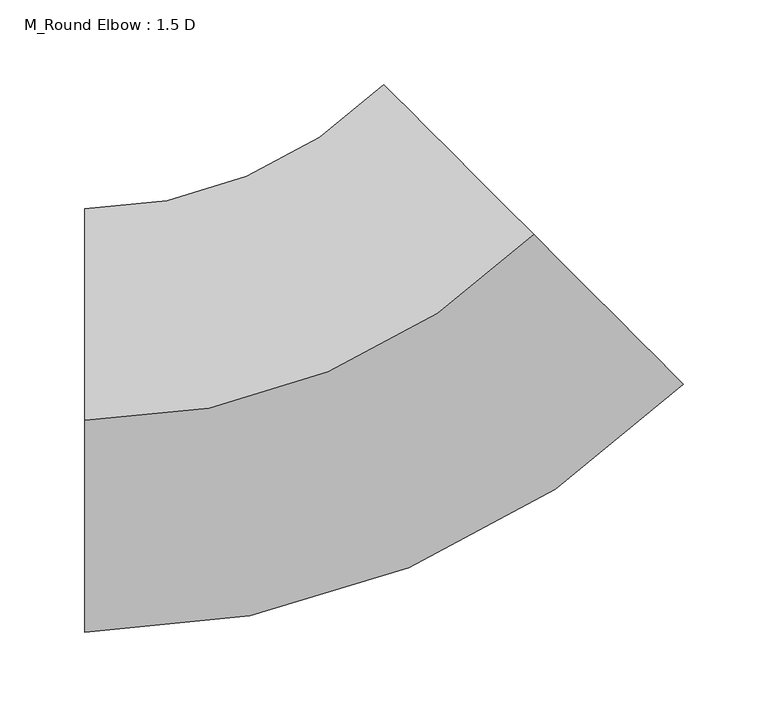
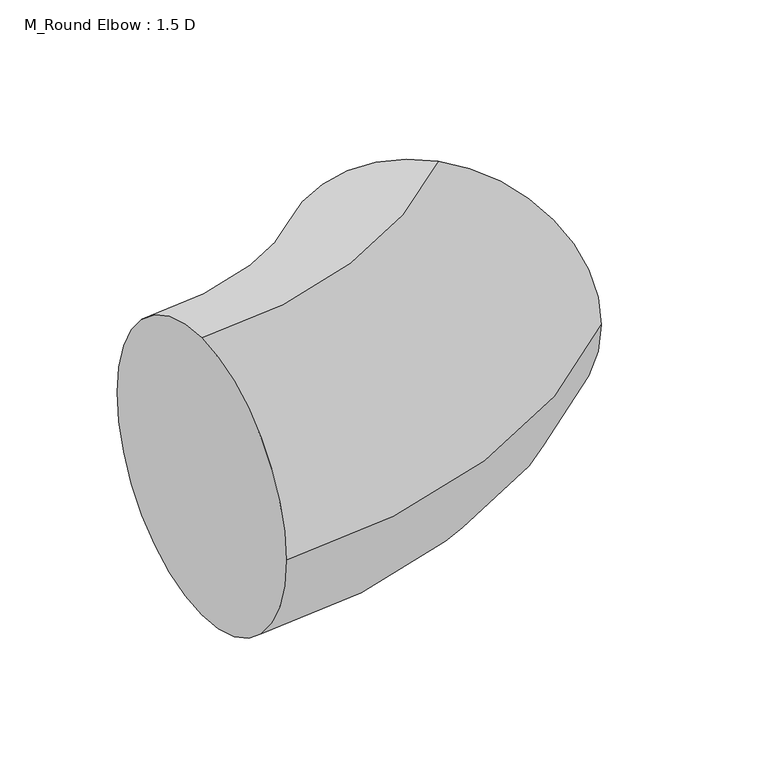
"""IFC4 building model written with IfcOpenShell, lengths in millimetres: duct fitting geometry, M_Round Elbow : 1.5 D."""

from ifc_helpers import new_model, si_unit, point, frame, origin, place, context, project, spatial, circle_curve, ellipse_curve, trimmed, source, transform, mapped, element, save
from ifc_brep_helpers import plane_surface, revolved_surface, advanced_brep


def m_round_elbow_1_5_d_6facac79(model_context):
    return source(origin(), model_context, "Body", "AdvancedBrep", [
        advanced_brep(
        [(-155.3300859, 0.0, 125.0), (-155.3300859, 125.0, 0.0), (-155.3300859, 0.0, -125.0), (-155.3300859, -125.0, 0.0), (109.8349571, 109.8349571, 125.0), (198.2233047, 21.4466094, 0.0), (109.8349571, 109.8349571, -125.0), (21.4466094, 198.2233047, 0.0)],
        [
            (0, 1, circle_curve(frame((-155.3300859, 0.0, 0.0), z_axis=(-1.0, 0.0, 0.0), x_axis=(0.0, 1.0, 0.0)), 125.0)),
            (1, 2, circle_curve(frame((-155.3300859, 0.0, 0.0), z_axis=(-1.0, 0.0, 0.0), x_axis=(0.0, 1.0, 0.0)), 125.0)),
            (2, 3, circle_curve(frame((-155.3300859, 0.0, 0.0), z_axis=(-1.0, 0.0, 0.0), x_axis=(0.0, 1.0, 0.0)), 125.0)),
            (3, 0, circle_curve(frame((-155.3300859, 0.0, 0.0), z_axis=(-1.0, 0.0, 0.0), x_axis=(0.0, 1.0, 0.0)), 125.0)),
            (4, 5, circle_curve(frame((109.8349571, 109.8349571, 0.0), z_axis=(0.707106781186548, 0.707106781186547, 0.0), x_axis=(-0.707106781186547, 0.707106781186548, 0.0)), 125.0)),
            (5, 6, circle_curve(frame((109.8349571, 109.8349571, 0.0), z_axis=(0.707106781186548, 0.707106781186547, 0.0), x_axis=(-0.707106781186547, 0.707106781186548, 0.0)), 125.0)),
            (6, 7, circle_curve(frame((109.8349571, 109.8349571, 0.0), z_axis=(0.707106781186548, 0.707106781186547, 0.0), x_axis=(-0.707106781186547, 0.707106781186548, 0.0)), 125.0)),
            (7, 4, circle_curve(frame((109.8349571, 109.8349571, 0.0), z_axis=(0.707106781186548, 0.707106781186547, 0.0), x_axis=(-0.707106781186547, 0.707106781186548, 0.0)), 125.0)),
            (7, 1, circle_curve(frame((-155.3300859, 375.0, 0.0), z_axis=(0.0, 0.0, -1.0), x_axis=(0.0, -1.0, 0.0)), 250.0)),
            (0, 4, circle_curve(frame((-155.3300859, 375.0, 125.0), z_axis=(0.0, 0.0, 1.0), x_axis=(0.0, -1.0, 0.0)), 375.0)),
            (6, 2, circle_curve(frame((-155.3300859, 375.0, -125.0), z_axis=(0.0, 0.0, -1.0), x_axis=(0.0, -1.0, 0.0)), 375.0)),
            (5, 3, circle_curve(frame((-155.3300859, 375.0, 0.0), z_axis=(0.0, 0.0, -1.0), x_axis=(0.0, -1.0, 0.0)), 500.0)),
        ],
        [
            plane_surface(frame((-155.3300859, 0.0, 0.0), z_axis=(-1.0, 0.0, 0.0), x_axis=(0.0, 0.0, 1.0))),
            plane_surface(frame((109.8349571, 109.8349571, 0.0), z_axis=(0.707106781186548, 0.7071067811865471, 0.0), x_axis=(0.0, 0.0, 1.0))),
            revolved_surface(trimmed(ellipse_curve(frame((-155.3300859, 0.0, 0.0), z_axis=(-1.0, 0.0, 0.0), x_axis=(0.0, 1.0, 0.0)), 125.0, 125.0), [point((-155.3300859, 0.0, 125.0))], [point((-155.3300859, 125.0, 0.0))], True, "CARTESIAN"), (-155.3300859, 375.0, 0.0), (0.0, 0.0, 1.0)),
            revolved_surface(trimmed(ellipse_curve(frame((-155.3300859, 0.0, 0.0), z_axis=(-1.0, 0.0, 0.0), x_axis=(0.0, 1.0, 0.0)), 125.0, 125.0), [point((-155.3300859, 125.0, 0.0))], [point((-155.3300859, 0.0, -125.0))], True, "CARTESIAN"), (-155.3300859, 375.0, 0.0), (0.0, 0.0, 1.0)),
            revolved_surface(trimmed(ellipse_curve(frame((-155.3300859, 0.0, 0.0), z_axis=(-1.0, 0.0, 0.0), x_axis=(0.0, 1.0, 0.0)), 125.0, 125.0), [point((-155.3300859, 0.0, -125.0))], [point((-155.3300859, -125.0, 0.0))], True, "CARTESIAN"), (-155.3300859, 375.0, 0.0), (0.0, 0.0, 1.0)),
            revolved_surface(trimmed(ellipse_curve(frame((-155.3300859, 0.0, 0.0), z_axis=(-1.0, 0.0, 0.0), x_axis=(0.0, 1.0, 0.0)), 125.0, 125.0), [point((-155.3300859, -125.0, 0.0))], [point((-155.3300859, 0.0, 125.0))], True, "CARTESIAN"), (-155.3300859, 375.0, 0.0), (0.0, 0.0, 1.0)),
        ],
        [
            (0, [[1, 2, 3, 4]]),
            (1, [[5, 6, 7, 8]]),
            (2, [[9, -1, 10, -8]]),
            (3, [[11, -2, -9, -7]]),
            (4, [[12, -3, -11, -6]]),
            (5, [[-10, -4, -12, -5]]),
        ],
    ),
        advanced_brep(
        [(-155.3300859, 0.0, 125.0), (-155.3300859, 125.0, 0.0), (-155.3300859, 0.0, -125.0), (-155.3300859, -125.0, 0.0), (109.8349571, 109.8349571, 125.0), (198.2233047, 21.4466094, 0.0), (109.8349571, 109.8349571, -125.0), (21.4466094, 198.2233047, 0.0)],
        [
            (0, 1, circle_curve(frame((-155.3300859, 0.0, 0.0), z_axis=(-1.0, 0.0, 0.0), x_axis=(0.0, 1.0, 0.0)), 125.0)),
            (1, 2, circle_curve(frame((-155.3300859, 0.0, 0.0), z_axis=(-1.0, 0.0, 0.0), x_axis=(0.0, 1.0, 0.0)), 125.0)),
            (2, 3, circle_curve(frame((-155.3300859, 0.0, 0.0), z_axis=(-1.0, 0.0, 0.0), x_axis=(0.0, 1.0, 0.0)), 125.0)),
            (3, 0, circle_curve(frame((-155.3300859, 0.0, 0.0), z_axis=(-1.0, 0.0, 0.0), x_axis=(0.0, 1.0, 0.0)), 125.0)),
            (4, 5, circle_curve(frame((109.8349571, 109.8349571, 0.0), z_axis=(0.707106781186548, 0.707106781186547, 0.0), x_axis=(-0.707106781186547, 0.707106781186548, 0.0)), 125.0)),
            (5, 6, circle_curve(frame((109.8349571, 109.8349571, 0.0), z_axis=(0.707106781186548, 0.707106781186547, 0.0), x_axis=(-0.707106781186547, 0.707106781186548, 0.0)), 125.0)),
            (6, 7, circle_curve(frame((109.8349571, 109.8349571, 0.0), z_axis=(0.707106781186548, 0.707106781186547, 0.0), x_axis=(-0.707106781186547, 0.707106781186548, 0.0)), 125.0)),
            (7, 4, circle_curve(frame((109.8349571, 109.8349571, 0.0), z_axis=(0.707106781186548, 0.707106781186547, 0.0), x_axis=(-0.707106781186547, 0.707106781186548, 0.0)), 125.0)),
            (7, 1, circle_curve(frame((-155.3300859, 375.0, 0.0), z_axis=(0.0, 0.0, -1.0), x_axis=(0.0, -1.0, 0.0)), 250.0)),
            (0, 4, circle_curve(frame((-155.3300859, 375.0, 125.0), z_axis=(0.0, 0.0, 1.0), x_axis=(0.0, -1.0, 0.0)), 375.0)),
            (6, 2, circle_curve(frame((-155.3300859, 375.0, -125.0), z_axis=(0.0, 0.0, -1.0), x_axis=(0.0, -1.0, 0.0)), 375.0)),
            (5, 3, circle_curve(frame((-155.3300859, 375.0, 0.0), z_axis=(0.0, 0.0, -1.0), x_axis=(0.0, -1.0, 0.0)), 500.0)),
        ],
        [
            plane_surface(frame((-155.3300859, 0.0, 0.0), z_axis=(-1.0, 0.0, 0.0), x_axis=(0.0, 0.0, 1.0))),
            plane_surface(frame((109.8349571, 109.8349571, 0.0), z_axis=(0.707106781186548, 0.7071067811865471, 0.0), x_axis=(0.0, 0.0, 1.0))),
            revolved_surface(trimmed(ellipse_curve(frame((-155.3300859, 0.0, 0.0), z_axis=(-1.0, 0.0, 0.0), x_axis=(0.0, 1.0, 0.0)), 125.0, 125.0), [point((-155.3300859, 0.0, 125.0))], [point((-155.3300859, 125.0, 0.0))], True, "CARTESIAN"), (-155.3300859, 375.0, 0.0), (0.0, 0.0, 1.0)),
            revolved_surface(trimmed(ellipse_curve(frame((-155.3300859, 0.0, 0.0), z_axis=(-1.0, 0.0, 0.0), x_axis=(0.0, 1.0, 0.0)), 125.0, 125.0), [point((-155.3300859, 125.0, 0.0))], [point((-155.3300859, 0.0, -125.0))], True, "CARTESIAN"), (-155.3300859, 375.0, 0.0), (0.0, 0.0, 1.0)),
            revolved_surface(trimmed(ellipse_curve(frame((-155.3300859, 0.0, 0.0), z_axis=(-1.0, 0.0, 0.0), x_axis=(0.0, 1.0, 0.0)), 125.0, 125.0), [point((-155.3300859, 0.0, -125.0))], [point((-155.3300859, -125.0, 0.0))], True, "CARTESIAN"), (-155.3300859, 375.0, 0.0), (0.0, 0.0, 1.0)),
            revolved_surface(trimmed(ellipse_curve(frame((-155.3300859, 0.0, 0.0), z_axis=(-1.0, 0.0, 0.0), x_axis=(0.0, 1.0, 0.0)), 125.0, 125.0), [point((-155.3300859, -125.0, 0.0))], [point((-155.3300859, 0.0, 125.0))], True, "CARTESIAN"), (-155.3300859, 375.0, 0.0), (0.0, 0.0, 1.0)),
        ],
        [
            (0, [[1, 2, 3, 4]]),
            (1, [[5, 6, 7, 8]]),
            (2, [[9, -1, 10, -8]]),
            (3, [[11, -2, -9, -7]]),
            (4, [[12, -3, -11, -6]]),
            (5, [[-10, -4, -12, -5]]),
        ],
    ),
        advanced_brep(
        [(-155.3300859, 0.0, 125.0), (-155.3300859, 125.0, 0.0), (-155.3300859, 0.0, -125.0), (-155.3300859, -125.0, 0.0), (109.8349571, 109.8349571, 125.0), (198.2233047, 21.4466094, 0.0), (109.8349571, 109.8349571, -125.0), (21.4466094, 198.2233047, 0.0)],
        [
            (0, 1, circle_curve(frame((-155.3300859, 0.0, 0.0), z_axis=(-1.0, 0.0, 0.0), x_axis=(0.0, 1.0, 0.0)), 125.0)),
            (1, 2, circle_curve(frame((-155.3300859, 0.0, 0.0), z_axis=(-1.0, 0.0, 0.0), x_axis=(0.0, 1.0, 0.0)), 125.0)),
            (2, 3, circle_curve(frame((-155.3300859, 0.0, 0.0), z_axis=(-1.0, 0.0, 0.0), x_axis=(0.0, 1.0, 0.0)), 125.0)),
            (3, 0, circle_curve(frame((-155.3300859, 0.0, 0.0), z_axis=(-1.0, 0.0, 0.0), x_axis=(0.0, 1.0, 0.0)), 125.0)),
            (4, 5, circle_curve(frame((109.8349571, 109.8349571, 0.0), z_axis=(0.707106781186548, 0.707106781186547, 0.0), x_axis=(-0.707106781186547, 0.707106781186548, 0.0)), 125.0)),
            (5, 6, circle_curve(frame((109.8349571, 109.8349571, 0.0), z_axis=(0.707106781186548, 0.707106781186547, 0.0), x_axis=(-0.707106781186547, 0.707106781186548, 0.0)), 125.0)),
            (6, 7, circle_curve(frame((109.8349571, 109.8349571, 0.0), z_axis=(0.707106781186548, 0.707106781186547, 0.0), x_axis=(-0.707106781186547, 0.707106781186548, 0.0)), 125.0)),
            (7, 4, circle_curve(frame((109.8349571, 109.8349571, 0.0), z_axis=(0.707106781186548, 0.707106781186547, 0.0), x_axis=(-0.707106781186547, 0.707106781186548, 0.0)), 125.0)),
            (7, 1, circle_curve(frame((-155.3300859, 375.0, 0.0), z_axis=(0.0, 0.0, -1.0), x_axis=(0.0, -1.0, 0.0)), 250.0)),
            (0, 4, circle_curve(frame((-155.3300859, 375.0, 125.0), z_axis=(0.0, 0.0, 1.0), x_axis=(0.0, -1.0, 0.0)), 375.0)),
            (6, 2, circle_curve(frame((-155.3300859, 375.0, -125.0), z_axis=(0.0, 0.0, -1.0), x_axis=(0.0, -1.0, 0.0)), 375.0)),
            (5, 3, circle_curve(frame((-155.3300859, 375.0, 0.0), z_axis=(0.0, 0.0, -1.0), x_axis=(0.0, -1.0, 0.0)), 500.0)),
        ],
        [
            plane_surface(frame((-155.3300859, 0.0, 0.0), z_axis=(-1.0, 0.0, 0.0), x_axis=(0.0, 0.0, 1.0))),
            plane_surface(frame((109.8349571, 109.8349571, 0.0), z_axis=(0.707106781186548, 0.7071067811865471, 0.0), x_axis=(0.0, 0.0, 1.0))),
            revolved_surface(trimmed(ellipse_curve(frame((-155.3300859, 0.0, 0.0), z_axis=(-1.0, 0.0, 0.0), x_axis=(0.0, 1.0, 0.0)), 125.0, 125.0), [point((-155.3300859, 0.0, 125.0))], [point((-155.3300859, 125.0, 0.0))], True, "CARTESIAN"), (-155.3300859, 375.0, 0.0), (0.0, 0.0, 1.0)),
            revolved_surface(trimmed(ellipse_curve(frame((-155.3300859, 0.0, 0.0), z_axis=(-1.0, 0.0, 0.0), x_axis=(0.0, 1.0, 0.0)), 125.0, 125.0), [point((-155.3300859, 125.0, 0.0))], [point((-155.3300859, 0.0, -125.0))], True, "CARTESIAN"), (-155.3300859, 375.0, 0.0), (0.0, 0.0, 1.0)),
            revolved_surface(trimmed(ellipse_curve(frame((-155.3300859, 0.0, 0.0), z_axis=(-1.0, 0.0, 0.0), x_axis=(0.0, 1.0, 0.0)), 125.0, 125.0), [point((-155.3300859, 0.0, -125.0))], [point((-155.3300859, -125.0, 0.0))], True, "CARTESIAN"), (-155.3300859, 375.0, 0.0), (0.0, 0.0, 1.0)),
            revolved_surface(trimmed(ellipse_curve(frame((-155.3300859, 0.0, 0.0), z_axis=(-1.0, 0.0, 0.0), x_axis=(0.0, 1.0, 0.0)), 125.0, 125.0), [point((-155.3300859, -125.0, 0.0))], [point((-155.3300859, 0.0, 125.0))], True, "CARTESIAN"), (-155.3300859, 375.0, 0.0), (0.0, 0.0, 1.0)),
        ],
        [
            (0, [[1, 2, 3, 4]]),
            (1, [[5, 6, 7, 8]]),
            (2, [[9, -1, 10, -8]]),
            (3, [[11, -2, -9, -7]]),
            (4, [[12, -3, -11, -6]]),
            (5, [[-10, -4, -12, -5]]),
        ],
    ),
    ])


if __name__ == "__main__":
    model = new_model("IFC4")
    model_context = context("Model", 3, world=origin())
    ifc_project = project(units=[si_unit("LENGTHUNIT", "METRE", prefix="MILLI")], contexts=[model_context])
    site = spatial("IfcSite", under=ifc_project)
    building = spatial("IfcBuilding", under=site)
    placement = place(None, origin())
    m_round_elbow_1_5_d_shape = m_round_elbow_1_5_d_6facac79(model_context)
    element("IfcDuctFitting", 1, ObjectType="M_Round Elbow : 1.5 D", at=placement, inside=building, context=model_context, shape_type="MappedRepresentation", body=[
        mapped(m_round_elbow_1_5_d_shape, transform((0.0, 0.0, 0.0), x_axis=(1.0, 0.0, 0.0), y_axis=(0.0, 1.0, 0.0), z_axis=(0.0, 0.0, 1.0))),
    ])
    save(model, "model.ifc")
